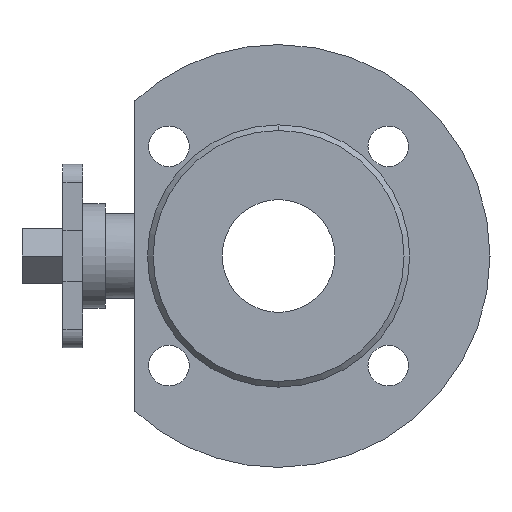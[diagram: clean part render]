
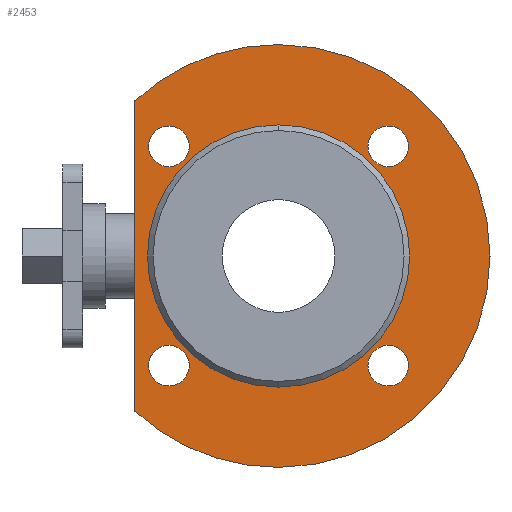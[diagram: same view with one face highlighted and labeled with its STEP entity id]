
A CAD part, left-side view. The second image highlights one B-rep face of the part: STEP entity #2453.
In plain terms, the highlighted planar face has unit normal (-1, 0, 0).
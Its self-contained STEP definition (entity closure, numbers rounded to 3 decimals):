
#17 = DIRECTION ( 'NONE',  ( 0., -1., 0. ) ) ;
#26 = CARTESIAN_POINT ( 'NONE',  ( -30.5, 0., 0. ) ) ;
#53 = ORIENTED_EDGE ( 'NONE', *, *, #2849, .F. ) ;
#67 = DIRECTION ( 'NONE',  ( 0., 0., -1. ) ) ;
#95 = CARTESIAN_POINT ( 'NONE',  ( -30.5, 0., 0. ) ) ;
#119 = EDGE_CURVE ( 'NONE', #2359, #541, #1997, .T. ) ;
#132 = FACE_BOUND ( 'NONE', #2516, .T. ) ;
#173 = DIRECTION ( 'NONE',  ( -1., 0., 0. ) ) ;
#236 = CIRCLE ( 'NONE', #2416, 7.2 ) ;
#258 = CARTESIAN_POINT ( 'NONE',  ( -30.5, 38.891, 31.691 ) ) ;
#262 = DIRECTION ( 'NONE',  ( 0., 0., 1. ) ) ;
#266 = CARTESIAN_POINT ( 'NONE',  ( -30.5, 51., -54.991 ) ) ;
#296 = CARTESIAN_POINT ( 'NONE',  ( -30.5, 38.891, 38.891 ) ) ;
#310 = EDGE_LOOP ( 'NONE', ( #53, #510 ) ) ;
#332 = DIRECTION ( 'NONE',  ( 0., 0., 1. ) ) ;
#340 = ORIENTED_EDGE ( 'NONE', *, *, #119, .F. ) ;
#355 = CIRCLE ( 'NONE', #1869, 7.2 ) ;
#399 = VERTEX_POINT ( 'NONE', #1670 ) ;
#407 = AXIS2_PLACEMENT_3D ( 'NONE', #2393, #1030, #2619 ) ;
#427 = EDGE_CURVE ( 'NONE', #911, #1107, #605, .T. ) ;
#455 = CARTESIAN_POINT ( 'NONE',  ( -30.5, 51., 0. ) ) ;
#483 = EDGE_CURVE ( 'NONE', #1107, #911, #2204, .T. ) ;
#495 = CIRCLE ( 'NONE', #2244, 46.5 ) ;
#510 = ORIENTED_EDGE ( 'NONE', *, *, #2196, .F. ) ;
#526 = CARTESIAN_POINT ( 'NONE',  ( -30.5, 0., 0. ) ) ;
#541 = VERTEX_POINT ( 'NONE', #2851 ) ;
#552 = CARTESIAN_POINT ( 'NONE',  ( -30.5, 38.891, -31.691 ) ) ;
#560 = VERTEX_POINT ( 'NONE', #2411 ) ;
#575 = CARTESIAN_POINT ( 'NONE',  ( -30.5, 0., -46.5 ) ) ;
#583 = DIRECTION ( 'NONE',  ( -1., 0., 0. ) ) ;
#587 = AXIS2_PLACEMENT_3D ( 'NONE', #1631, #1406, #67 ) ;
#605 = CIRCLE ( 'NONE', #2289, 7.2 ) ;
#664 = ORIENTED_EDGE ( 'NONE', *, *, #427, .F. ) ;
#670 = DIRECTION ( 'NONE',  ( 0., 0., -1. ) ) ;
#739 = FACE_BOUND ( 'NONE', #2357, .T. ) ;
#749 = DIRECTION ( 'NONE',  ( 0., 0., 1. ) ) ;
#786 = CIRCLE ( 'NONE', #806, 75. ) ;
#803 = DIRECTION ( 'NONE',  ( -1., 0., 0. ) ) ;
#806 = AXIS2_PLACEMENT_3D ( 'NONE', #95, #1682, #332 ) ;
#881 = VECTOR ( 'NONE', #670, 1000. ) ;
#887 = CIRCLE ( 'NONE', #2205, 7.2 ) ;
#900 = EDGE_LOOP ( 'NONE', ( #2837, #2874, #1812, #1650 ) ) ;
#907 = VERTEX_POINT ( 'NONE', #266 ) ;
#911 = VERTEX_POINT ( 'NONE', #2535 ) ;
#929 = CARTESIAN_POINT ( 'NONE',  ( -30.5, -38.891, 31.691 ) ) ;
#967 = DIRECTION ( 'NONE',  ( -1., 0., 0. ) ) ;
#1030 = DIRECTION ( 'NONE',  ( -1., 0., 0. ) ) ;
#1042 = DIRECTION ( 'NONE',  ( -1., 0., 0. ) ) ;
#1086 = DIRECTION ( 'NONE',  ( -1., 0., 0. ) ) ;
#1089 = EDGE_CURVE ( 'NONE', #1709, #1434, #786, .T. ) ;
#1107 = VERTEX_POINT ( 'NONE', #1450 ) ;
#1143 = CARTESIAN_POINT ( 'NONE',  ( -30.5, 38.891, 38.891 ) ) ;
#1199 = EDGE_CURVE ( 'NONE', #907, #1709, #2835, .T. ) ;
#1214 = VERTEX_POINT ( 'NONE', #2847 ) ;
#1221 = DIRECTION ( 'NONE',  ( -1., 0., 0. ) ) ;
#1263 = AXIS2_PLACEMENT_3D ( 'NONE', #2405, #1042, #2627 ) ;
#1310 = ORIENTED_EDGE ( 'NONE', *, *, #2612, .F. ) ;
#1315 = FACE_BOUND ( 'NONE', #310, .T. ) ;
#1320 = CARTESIAN_POINT ( 'NONE',  ( -30.5, 0., 75. ) ) ;
#1360 = DIRECTION ( 'NONE',  ( -1., 0., 0. ) ) ;
#1363 = DIRECTION ( 'NONE',  ( 0., 0., 1. ) ) ;
#1406 = DIRECTION ( 'NONE',  ( 1., 0., 0. ) ) ;
#1434 = VERTEX_POINT ( 'NONE', #1320 ) ;
#1450 = CARTESIAN_POINT ( 'NONE',  ( -30.5, -38.891, -31.691 ) ) ;
#1496 = EDGE_CURVE ( 'NONE', #1214, #907, #2680, .T. ) ;
#1512 = CARTESIAN_POINT ( 'NONE',  ( -30.5, 38.891, -38.891 ) ) ;
#1607 = DIRECTION ( 'NONE',  ( -1., 0., 0. ) ) ;
#1631 = CARTESIAN_POINT ( 'NONE',  ( -30.5, 75., 0. ) ) ;
#1650 = ORIENTED_EDGE ( 'NONE', *, *, #1496, .T. ) ;
#1670 = CARTESIAN_POINT ( 'NONE',  ( -30.5, 38.891, -46.091 ) ) ;
#1682 = DIRECTION ( 'NONE',  ( -1., 0., 0. ) ) ;
#1688 = ORIENTED_EDGE ( 'NONE', *, *, #2340, .F. ) ;
#1709 = VERTEX_POINT ( 'NONE', #2448 ) ;
#1713 = ORIENTED_EDGE ( 'NONE', *, *, #1883, .F. ) ;
#1745 = DIRECTION ( 'NONE',  ( 0., 1., 0. ) ) ;
#1778 = EDGE_LOOP ( 'NONE', ( #1713, #2646 ) ) ;
#1799 = EDGE_CURVE ( 'NONE', #1434, #1214, #1911, .T. ) ;
#1812 = ORIENTED_EDGE ( 'NONE', *, *, #1799, .T. ) ;
#1869 = AXIS2_PLACEMENT_3D ( 'NONE', #1143, #2729, #1363 ) ;
#1872 = FACE_OUTER_BOUND ( 'NONE', #900, .T. ) ;
#1883 = EDGE_CURVE ( 'NONE', #2036, #2231, #495, .T. ) ;
#1911 = CIRCLE ( 'NONE', #2897, 75. ) ;
#1947 = CARTESIAN_POINT ( 'NONE',  ( -30.5, 0., 0. ) ) ;
#1975 = CIRCLE ( 'NONE', #2635, 7.2 ) ;
#1997 = CIRCLE ( 'NONE', #2187, 7.2 ) ;
#2036 = VERTEX_POINT ( 'NONE', #575 ) ;
#2063 = EDGE_CURVE ( 'NONE', #2231, #2036, #2926, .T. ) ;
#2111 = DIRECTION ( 'NONE',  ( -1., 0., 0. ) ) ;
#2146 = EDGE_CURVE ( 'NONE', #399, #2576, #2788, .T. ) ;
#2159 = CARTESIAN_POINT ( 'NONE',  ( -30.5, 38.891, -38.891 ) ) ;
#2170 = AXIS2_PLACEMENT_3D ( 'NONE', #1947, #583, #2173 ) ;
#2173 = DIRECTION ( 'NONE',  ( 0., 0., 1. ) ) ;
#2187 = AXIS2_PLACEMENT_3D ( 'NONE', #296, #967, #2321 ) ;
#2196 = EDGE_CURVE ( 'NONE', #2913, #560, #1975, .T. ) ;
#2204 = CIRCLE ( 'NONE', #407, 7.2 ) ;
#2205 = AXIS2_PLACEMENT_3D ( 'NONE', #2723, #1360, #17 ) ;
#2231 = VERTEX_POINT ( 'NONE', #2907 ) ;
#2244 = AXIS2_PLACEMENT_3D ( 'NONE', #526, #2111, #749 ) ;
#2289 = AXIS2_PLACEMENT_3D ( 'NONE', #2594, #1221, #2811 ) ;
#2321 = DIRECTION ( 'NONE',  ( 0., 0., 1. ) ) ;
#2340 = EDGE_CURVE ( 'NONE', #541, #2359, #355, .T. ) ;
#2348 = AXIS2_PLACEMENT_3D ( 'NONE', #1512, #173, #1745 ) ;
#2357 = EDGE_LOOP ( 'NONE', ( #1688, #340 ) ) ;
#2359 = VERTEX_POINT ( 'NONE', #258 ) ;
#2393 = CARTESIAN_POINT ( 'NONE',  ( -30.5, -38.891, -38.891 ) ) ;
#2394 = DIRECTION ( 'NONE',  ( 0., 1., 0. ) ) ;
#2405 = CARTESIAN_POINT ( 'NONE',  ( -30.5, 0., 0. ) ) ;
#2411 = CARTESIAN_POINT ( 'NONE',  ( -30.5, -38.891, 46.091 ) ) ;
#2416 = AXIS2_PLACEMENT_3D ( 'NONE', #2159, #803, #2394 ) ;
#2448 = CARTESIAN_POINT ( 'NONE',  ( -30.5, 0., -75. ) ) ;
#2451 = CARTESIAN_POINT ( 'NONE',  ( -30.5, -38.891, 38.891 ) ) ;
#2453 = ADVANCED_FACE ( 'NONE', ( #1315, #132, #2552, #739, #2476, #1872 ), #2752, .F. ) ;
#2476 = FACE_BOUND ( 'NONE', #1778, .T. ) ;
#2516 = EDGE_LOOP ( 'NONE', ( #2545, #664 ) ) ;
#2535 = CARTESIAN_POINT ( 'NONE',  ( -30.5, -38.891, -46.091 ) ) ;
#2545 = ORIENTED_EDGE ( 'NONE', *, *, #483, .F. ) ;
#2552 = FACE_BOUND ( 'NONE', #2850, .T. ) ;
#2576 = VERTEX_POINT ( 'NONE', #552 ) ;
#2594 = CARTESIAN_POINT ( 'NONE',  ( -30.5, -38.891, -38.891 ) ) ;
#2612 = EDGE_CURVE ( 'NONE', #2576, #399, #236, .T. ) ;
#2619 = DIRECTION ( 'NONE',  ( 0., 0., -1. ) ) ;
#2627 = DIRECTION ( 'NONE',  ( 0., 0., 1. ) ) ;
#2635 = AXIS2_PLACEMENT_3D ( 'NONE', #2451, #1086, #2667 ) ;
#2643 = ORIENTED_EDGE ( 'NONE', *, *, #2146, .F. ) ;
#2646 = ORIENTED_EDGE ( 'NONE', *, *, #2063, .F. ) ;
#2667 = DIRECTION ( 'NONE',  ( 0., -1., 0. ) ) ;
#2680 = LINE ( 'NONE', #455, #881 ) ;
#2723 = CARTESIAN_POINT ( 'NONE',  ( -30.5, -38.891, 38.891 ) ) ;
#2729 = DIRECTION ( 'NONE',  ( -1., 0., 0. ) ) ;
#2752 = PLANE ( 'NONE',  #587 ) ;
#2788 = CIRCLE ( 'NONE', #2348, 7.2 ) ;
#2811 = DIRECTION ( 'NONE',  ( 0., 0., -1. ) ) ;
#2835 = CIRCLE ( 'NONE', #2170, 75. ) ;
#2837 = ORIENTED_EDGE ( 'NONE', *, *, #1199, .T. ) ;
#2847 = CARTESIAN_POINT ( 'NONE',  ( -30.5, 51., 54.991 ) ) ;
#2849 = EDGE_CURVE ( 'NONE', #560, #2913, #887, .T. ) ;
#2850 = EDGE_LOOP ( 'NONE', ( #1310, #2643 ) ) ;
#2851 = CARTESIAN_POINT ( 'NONE',  ( -30.5, 38.891, 46.091 ) ) ;
#2874 = ORIENTED_EDGE ( 'NONE', *, *, #1089, .T. ) ;
#2897 = AXIS2_PLACEMENT_3D ( 'NONE', #26, #1607, #262 ) ;
#2907 = CARTESIAN_POINT ( 'NONE',  ( -30.5, 0., 46.5 ) ) ;
#2913 = VERTEX_POINT ( 'NONE', #929 ) ;
#2926 = CIRCLE ( 'NONE', #1263, 46.5 ) ;
